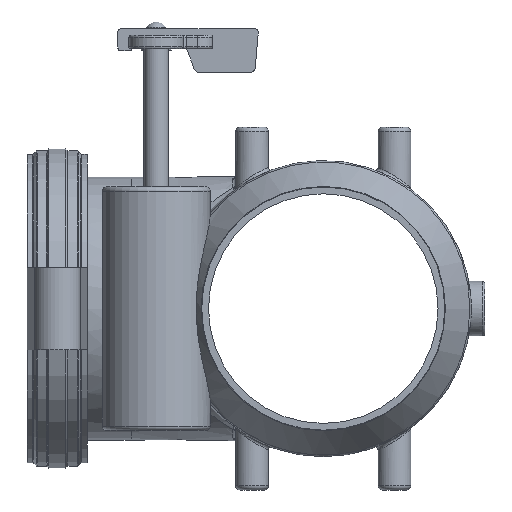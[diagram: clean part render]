
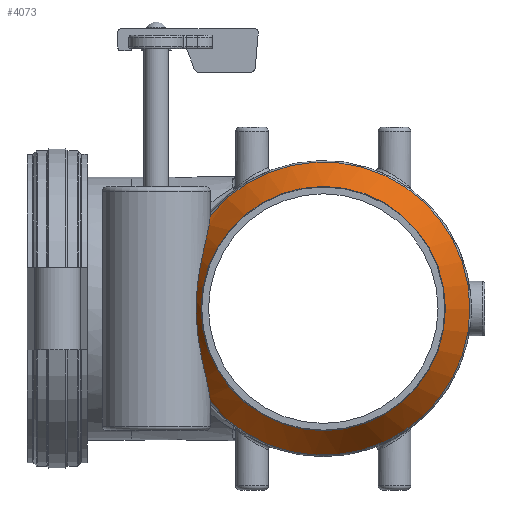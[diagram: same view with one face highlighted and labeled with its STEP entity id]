
A CAD part, left-side view. The second image highlights one B-rep face of the part: STEP entity #4073.
In plain terms, the highlighted conical face has half-angle 30 degrees and reference radius 155.808 mm.
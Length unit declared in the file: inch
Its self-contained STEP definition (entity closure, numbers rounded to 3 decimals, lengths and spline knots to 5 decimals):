
#80=CONICAL_SURFACE('',#4514,6.13417,0.524);
#186=B_SPLINE_CURVE_WITH_KNOTS('',3,(#8626,#8627,#8628,#8629,#8630,#8631,
#8632,#8633,#8634,#8635,#8636,#8637,#8638,#8639,#8640,#8641,#8642,#8643,
#8644,#8645,#8646,#8647,#8648,#8649,#8650,#8651,#8652,#8653,#8654,#8655),
 .UNSPECIFIED.,.F.,.F.,(4,2,2,2,2,2,2,2,2,2,2,2,2,2,4),(20.17594,
20.59509,23.38384,26.1726,27.56698,28.96136,
30.35574,31.75012,33.1445,34.53888,35.93326,
37.32764,40.1164,42.90516,43.3243),
 .UNSPECIFIED.);
#557=CIRCLE('',#4515,5.57546);
#558=CIRCLE('',#4516,5.57546);
#559=CIRCLE('',#4517,6.69289);
#560=CIRCLE('',#4518,6.69289);
#561=CIRCLE('',#4519,5.57546);
#806=FACE_OUTER_BOUND('',#1041,.T.);
#1041=EDGE_LOOP('',(#3463,#3464,#3465,#3466,#3467,#3468,#3469,#3470));
#1256=LINE('',#8814,#1460);
#1460=VECTOR('',#5601,6.13417);
#1775=VERTEX_POINT('',#8616);
#1776=VERTEX_POINT('',#8625);
#1800=VERTEX_POINT('',#8808);
#1801=VERTEX_POINT('',#8809);
#1802=VERTEX_POINT('',#8811);
#1803=VERTEX_POINT('',#8813);
#2314=EDGE_CURVE('',#1776,#1775,#186,.T.);
#2368=EDGE_CURVE('',#1800,#1801,#557,.T.);
#2369=EDGE_CURVE('',#1802,#1800,#558,.T.);
#2370=EDGE_CURVE('',#1802,#1803,#1256,.T.);
#2371=EDGE_CURVE('',#1803,#1776,#559,.T.);
#2372=EDGE_CURVE('',#1775,#1803,#560,.T.);
#2373=EDGE_CURVE('',#1801,#1802,#561,.T.);
#3463=ORIENTED_EDGE('',*,*,#2368,.F.);
#3464=ORIENTED_EDGE('',*,*,#2369,.F.);
#3465=ORIENTED_EDGE('',*,*,#2370,.T.);
#3466=ORIENTED_EDGE('',*,*,#2371,.T.);
#3467=ORIENTED_EDGE('',*,*,#2314,.T.);
#3468=ORIENTED_EDGE('',*,*,#2372,.T.);
#3469=ORIENTED_EDGE('',*,*,#2370,.F.);
#3470=ORIENTED_EDGE('',*,*,#2373,.F.);
#4073=ADVANCED_FACE('',(#806),#80,.T.);
#4514=AXIS2_PLACEMENT_3D('',#8807,#5595,#5596);
#4515=AXIS2_PLACEMENT_3D('',#8810,#5597,#5598);
#4516=AXIS2_PLACEMENT_3D('',#8812,#5599,#5600);
#4517=AXIS2_PLACEMENT_3D('',#8815,#5602,#5603);
#4518=AXIS2_PLACEMENT_3D('',#8816,#5604,#5605);
#4519=AXIS2_PLACEMENT_3D('',#8817,#5606,#5607);
#5595=DIRECTION('center_axis',(1.,0.,0.));
#5596=DIRECTION('ref_axis',(0.,1.,0.));
#5597=DIRECTION('center_axis',(-1.,0.,0.));
#5598=DIRECTION('ref_axis',(0.,0.,1.));
#5599=DIRECTION('center_axis',(-1.,0.,0.));
#5600=DIRECTION('ref_axis',(0.,0.,1.));
#5601=DIRECTION('',(0.866,-0.5,0.));
#5602=DIRECTION('center_axis',(-1.,0.,0.));
#5603=DIRECTION('ref_axis',(0.,0.,1.));
#5604=DIRECTION('center_axis',(-1.,0.,0.));
#5605=DIRECTION('ref_axis',(0.,0.,1.));
#5606=DIRECTION('center_axis',(-1.,0.,0.));
#5607=DIRECTION('ref_axis',(0.,0.,1.));
#8616=CARTESIAN_POINT('',(-6.11623,5.16275,-4.25921));
#8625=CARTESIAN_POINT('',(-6.11623,5.16275,4.25921));
#8626=CARTESIAN_POINT('Ctrl Pts',(-6.11623,5.16275,4.25921));
#8627=CARTESIAN_POINT('Ctrl Pts',(-6.15723,5.16469,4.21967));
#8628=CARTESIAN_POINT('Ctrl Pts',(-6.19681,5.16759,4.17988));
#8629=CARTESIAN_POINT('Ctrl Pts',(-6.48744,5.19545,3.8766));
#8630=CARTESIAN_POINT('Ctrl Pts',(-6.70695,5.2555,3.5808));
#8631=CARTESIAN_POINT('Ctrl Pts',(-7.07519,5.39861,2.93971));
#8632=CARTESIAN_POINT('Ctrl Pts',(-7.22352,5.48153,2.59417));
#8633=CARTESIAN_POINT('Ctrl Pts',(-7.39456,5.59234,2.05394));
#8634=CARTESIAN_POINT('Ctrl Pts',(-7.44314,5.62712,1.87014));
#8635=CARTESIAN_POINT('Ctrl Pts',(-7.52462,5.68874,1.49826));
#8636=CARTESIAN_POINT('Ctrl Pts',(-7.55752,5.71557,1.31019));
#8637=CARTESIAN_POINT('Ctrl Pts',(-7.60909,5.75894,0.93321));
#8638=CARTESIAN_POINT('Ctrl Pts',(-7.62776,5.77548,0.74429));
#8639=CARTESIAN_POINT('Ctrl Pts',(-7.65224,5.79737,0.36918));
#8640=CARTESIAN_POINT('Ctrl Pts',(-7.65805,5.80273,0.18299));
#8641=CARTESIAN_POINT('Ctrl Pts',(-7.65805,5.80273,-0.18299));
#8642=CARTESIAN_POINT('Ctrl Pts',(-7.65224,5.79737,-0.36918));
#8643=CARTESIAN_POINT('Ctrl Pts',(-7.62776,5.77548,-0.74429));
#8644=CARTESIAN_POINT('Ctrl Pts',(-7.60909,5.75894,-0.93321));
#8645=CARTESIAN_POINT('Ctrl Pts',(-7.55752,5.71557,-1.31019));
#8646=CARTESIAN_POINT('Ctrl Pts',(-7.52462,5.68874,-1.49826));
#8647=CARTESIAN_POINT('Ctrl Pts',(-7.44314,5.62712,-1.87014));
#8648=CARTESIAN_POINT('Ctrl Pts',(-7.39456,5.59234,-2.05394));
#8649=CARTESIAN_POINT('Ctrl Pts',(-7.22352,5.48153,-2.59417));
#8650=CARTESIAN_POINT('Ctrl Pts',(-7.07519,5.39861,-2.93971));
#8651=CARTESIAN_POINT('Ctrl Pts',(-6.70695,5.2555,-3.5808));
#8652=CARTESIAN_POINT('Ctrl Pts',(-6.48744,5.19545,-3.8766));
#8653=CARTESIAN_POINT('Ctrl Pts',(-6.19681,5.16759,-4.17988));
#8654=CARTESIAN_POINT('Ctrl Pts',(-6.15723,5.16469,-4.21967));
#8655=CARTESIAN_POINT('Ctrl Pts',(-6.11623,5.16275,-4.25921));
#8807=CARTESIAN_POINT('Origin',(-7.08396,0.,0.));
#8808=CARTESIAN_POINT('',(-8.05169,5.57546,0.));
#8809=CARTESIAN_POINT('',(-8.05169,0.,-5.57546));
#8810=CARTESIAN_POINT('Origin',(-8.05169,0.,0.));
#8811=CARTESIAN_POINT('',(-8.05169,-5.57546,0.));
#8812=CARTESIAN_POINT('Origin',(-8.05169,0.,0.));
#8813=CARTESIAN_POINT('',(-6.11623,-6.69289,0.));
#8814=CARTESIAN_POINT('',(-7.08396,-6.13417,0.));
#8815=CARTESIAN_POINT('Origin',(-6.11623,0.,0.));
#8816=CARTESIAN_POINT('Origin',(-6.11623,0.,0.));
#8817=CARTESIAN_POINT('Origin',(-8.05169,0.,0.));
